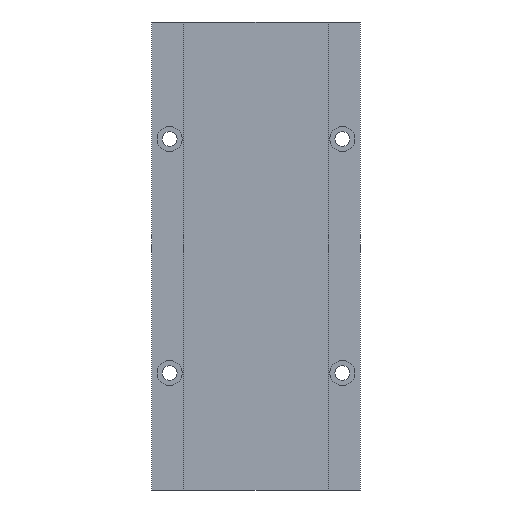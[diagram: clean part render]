
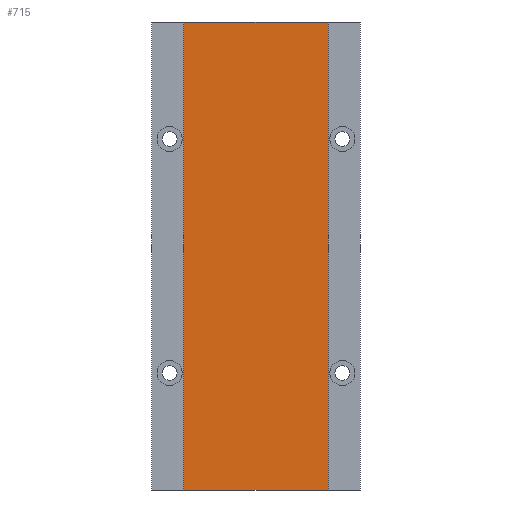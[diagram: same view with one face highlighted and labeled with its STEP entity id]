
A CAD part, left-side view. The second image highlights one B-rep face of the part: STEP entity #715.
In plain terms, the highlighted planar face has unit normal (-1, 0, 0).
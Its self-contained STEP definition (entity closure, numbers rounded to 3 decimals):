
#15 = ORIENTED_EDGE ( 'NONE', *, *, #26, .T. ) ;
#23 = DIRECTION ( 'NONE',  ( 0., 1., 0. ) ) ;
#26 = EDGE_CURVE ( 'NONE', #509, #473, #809, .T. ) ;
#81 = CARTESIAN_POINT ( 'NONE',  ( -7.8, -26., 0. ) ) ;
#91 = CARTESIAN_POINT ( 'NONE',  ( -7.8, -26., 168. ) ) ;
#96 = DIRECTION ( 'NONE',  ( 0., 0., -1. ) ) ;
#147 = EDGE_LOOP ( 'NONE', ( #341, #353, #476, #15 ) ) ;
#149 = LINE ( 'NONE', #538, #696 ) ;
#159 = DIRECTION ( 'NONE',  ( -1., 0., 0. ) ) ;
#177 = VERTEX_POINT ( 'NONE', #523 ) ;
#207 = EDGE_CURVE ( 'NONE', #177, #661, #865, .T. ) ;
#242 = LINE ( 'NONE', #818, #472 ) ;
#284 = EDGE_CURVE ( 'NONE', #177, #509, #242, .T. ) ;
#291 = DIRECTION ( 'NONE',  ( 0., 0., -1. ) ) ;
#327 = FACE_OUTER_BOUND ( 'NONE', #147, .T. ) ;
#341 = ORIENTED_EDGE ( 'NONE', *, *, #904, .F. ) ;
#353 = ORIENTED_EDGE ( 'NONE', *, *, #207, .F. ) ;
#418 = CARTESIAN_POINT ( 'NONE',  ( -7.8, 26., 168. ) ) ;
#425 = CARTESIAN_POINT ( 'NONE',  ( -7.8, 26., 0. ) ) ;
#472 = VECTOR ( 'NONE', #23, 1000. ) ;
#473 = VERTEX_POINT ( 'NONE', #425 ) ;
#476 = ORIENTED_EDGE ( 'NONE', *, *, #284, .T. ) ;
#509 = VERTEX_POINT ( 'NONE', #418 ) ;
#523 = CARTESIAN_POINT ( 'NONE',  ( -7.8, -26., 168. ) ) ;
#538 = CARTESIAN_POINT ( 'NONE',  ( -7.8, 0., 0. ) ) ;
#604 = DIRECTION ( 'NONE',  ( 0., 1., 0. ) ) ;
#626 = VECTOR ( 'NONE', #96, 1000. ) ;
#661 = VERTEX_POINT ( 'NONE', #81 ) ;
#696 = VECTOR ( 'NONE', #604, 1000. ) ;
#715 = ADVANCED_FACE ( 'NONE', ( #327 ), #796, .T. ) ;
#737 = CARTESIAN_POINT ( 'NONE',  ( -7.8, 26., 168. ) ) ;
#767 = VECTOR ( 'NONE', #291, 1000. ) ;
#796 = PLANE ( 'NONE',  #917 ) ;
#809 = LINE ( 'NONE', #737, #767 ) ;
#811 = DIRECTION ( 'NONE',  ( 0., 0., 1. ) ) ;
#818 = CARTESIAN_POINT ( 'NONE',  ( -7.8, 0., 168. ) ) ;
#865 = LINE ( 'NONE', #91, #626 ) ;
#875 = CARTESIAN_POINT ( 'NONE',  ( -7.8, 0., 168. ) ) ;
#904 = EDGE_CURVE ( 'NONE', #661, #473, #149, .T. ) ;
#917 = AXIS2_PLACEMENT_3D ( 'NONE', #875, #159, #811 ) ;
